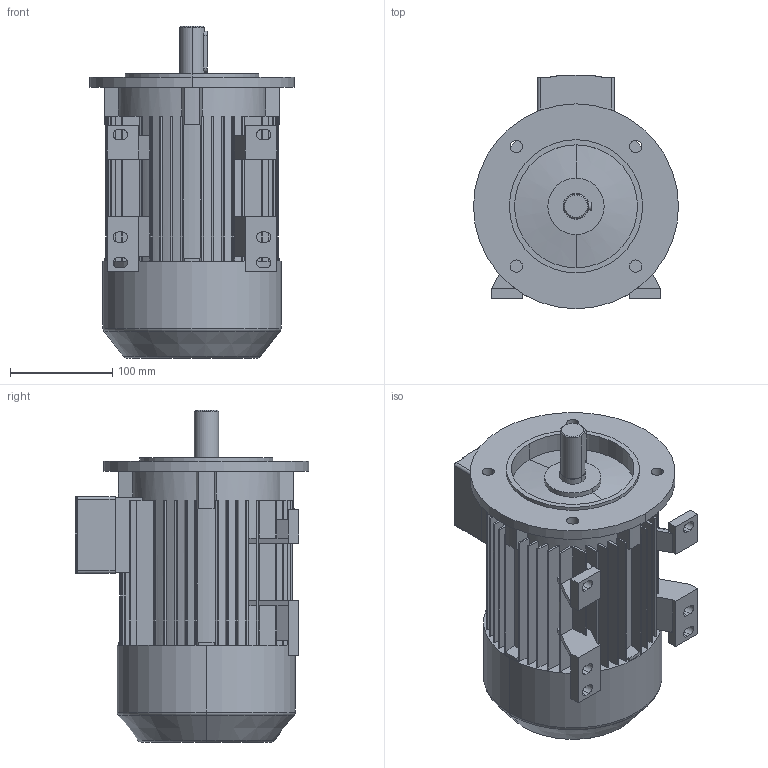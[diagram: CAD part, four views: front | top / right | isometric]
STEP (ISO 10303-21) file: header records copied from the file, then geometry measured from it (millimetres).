
FILE_DESCRIPTION((''),'2;1');
FILE_NAME('1LA7090-2AA16_PRT','2002-04-12T',('martin könig'),(''),'PRO/ENGINEER BY PARAMETRIC TECHNOLOGY CORPORATION, 2002030','PRO/ENGINEER BY PARAMETRIC TECHNOLOGY CORPORATION, 2002030','');
FILE_SCHEMA(('CONFIG_CONTROL_DESIGN'));
Length unit declared in the file: millimetre
Products named in the file (1): 1LA7090-2AA16_PRT
Bounding box: 200 x 228 x 324 mm (x, y, z)
Volume: 5693004.6 mm3; surface area: 399076.9 mm2
Topology: 1 solids, 1 shells, 373 faces, 1062 edges, 700 vertices
Faces by surface type: plane 247, cylinder 116, cone 6, torus 4
Entity records: 12261 total; most frequent: CARTESIAN_POINT 2166, ORIENTED_EDGE 2124, DIRECTION 2118, EDGE_CURVE 1062, VECTOR 748, LINE 748, VERTEX_POINT 700, AXIS2_PLACEMENT_3D 685
